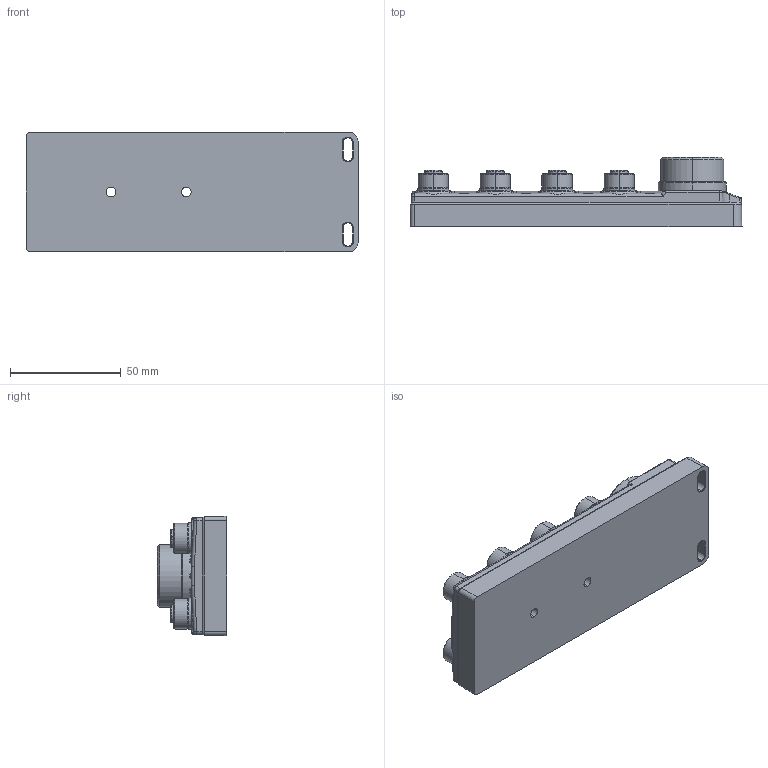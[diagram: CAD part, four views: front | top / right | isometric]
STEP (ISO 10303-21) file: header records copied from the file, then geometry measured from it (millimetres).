
FILE_DESCRIPTION (( 'STEP AP203' ), '1' );
FILE_NAME ('8MB12Z-RSF-New_Version.step', '2015-12-10T14:19:16', ( 'Turck User' ), ( '' ), 'SwSTEP 2.0', 'SolidWorks 2014', '' );
FILE_SCHEMA (( 'CONFIG_CONTROL_DESIGN' ));
Products named in the file (2): 8MB12Z-RSF-New_Version
Bounding box: 150 x 31.2 x 54 mm (x, y, z)
Volume: 133747.8 mm3; surface area: 41712.3 mm2
Topology: 1 solids, 34 shells, 3253 faces, 8468 edges, 5343 vertices
Faces by surface type: cylinder 1318, plane 933, bspline 617, cone 277, torus 108
Entity records: 128957 total; most frequent: CARTESIAN_POINT 58772, ORIENTED_EDGE 16722, DIRECTION 11593, EDGE_CURVE 8361, VERTEX_POINT 5343, AXIS2_PLACEMENT_3D 4202, EDGE_LOOP 3494, FACE_OUTER_BOUND 3253
